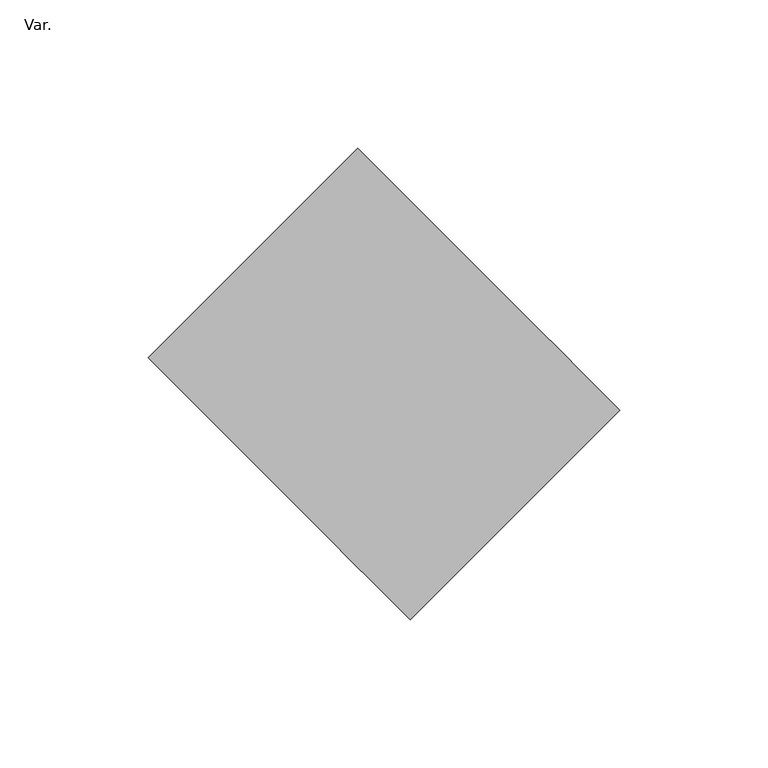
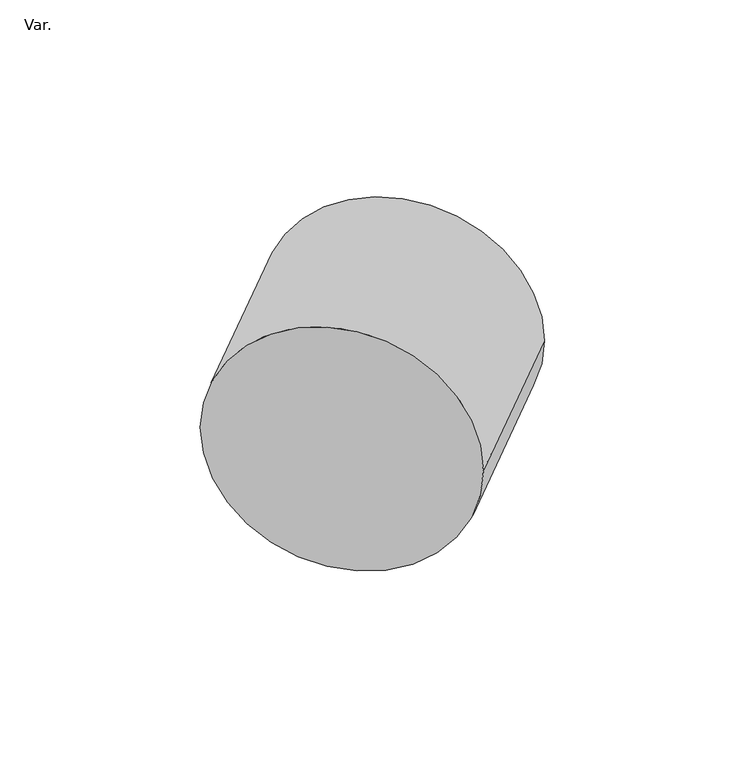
"""IFC4 building model written with IfcOpenShell, lengths in millimetres: pipe fitting geometry, NLRS_52_PIF_UN_HDPE 2x 45º bend_Akatherm : Var.."""

from ifc_helpers import new_model, si_unit, point, frame, origin, origin_2d, place, context, project, spatial, circle_curve, trimmed, segment, composite_curve, outline, extrude, source, transform, mapped, element, save


def var_834311a2(model_context):
    return source(origin(), model_context, "Body", "SweptSolid", [
        extrude(outline(composite_curve([segment(trimmed(circle_curve(origin_2d(), 62.5), [point((0.0, 62.5))], [point((0.0, -62.5))], False, "CARTESIAN"), True, "CONTINUOUS"), segment(trimmed(circle_curve(origin_2d(), 62.5), [point((0.0, -62.5))], [point((0.0, 62.5))], False, "CARTESIAN"), True, "CONTINUOUS")], self_intersect=False)), frame((-113.7027704, 42.9920923, 0.0), z_axis=(0.7071067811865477, 0.7071067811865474, 0.0), x_axis=(0.0, 0.0, 1.0)), (0.0, 0.0, 1.0), 100.0),
    ])


if __name__ == "__main__":
    model = new_model("IFC4")
    model_context = context("Model", 3, world=origin())
    ifc_project = project(units=[si_unit("LENGTHUNIT", "METRE", prefix="MILLI")], contexts=[model_context])
    site = spatial("IfcSite", under=ifc_project)
    building = spatial("IfcBuilding", under=site)
    placement = place(None, origin())
    var_shape = var_834311a2(model_context)
    element("IfcPipeFitting", 1, ObjectType="NLRS_52_PIF_UN_HDPE 2x 45º bend_Akatherm : Var.", at=placement, inside=building, context=model_context, shape_type="MappedRepresentation", body=[
        mapped(var_shape, transform((0.0, 0.0, 0.0), x_axis=(1.0, 0.0, 0.0), y_axis=(0.0, 1.0, 0.0), z_axis=(0.0, 0.0, 1.0))),
    ])
    save(model, "model.ifc")
